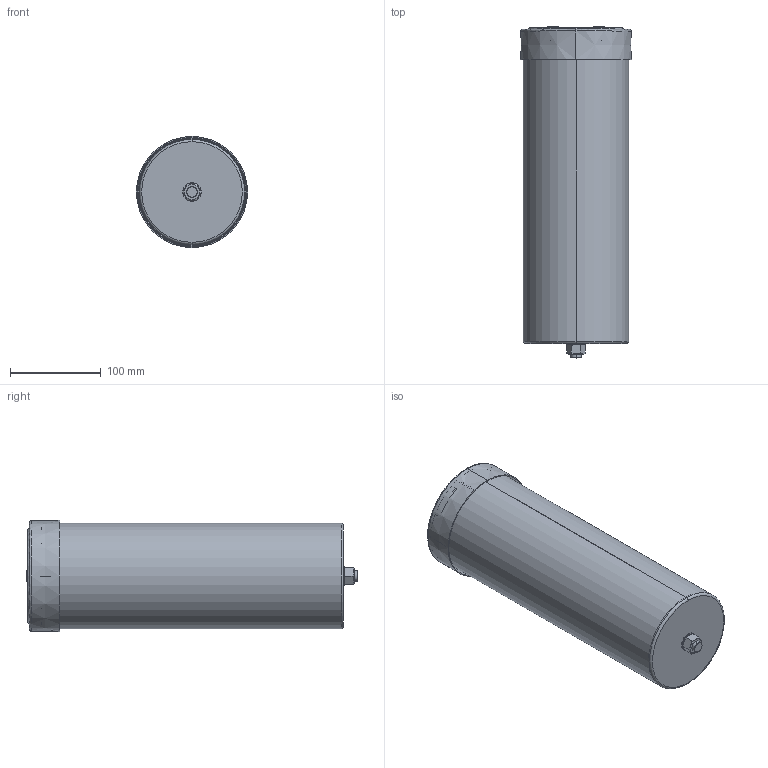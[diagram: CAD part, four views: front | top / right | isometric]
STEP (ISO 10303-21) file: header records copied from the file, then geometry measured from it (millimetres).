
FILE_DESCRIPTION (( 'STEP AP203' ), '1' );
FILE_NAME ('B25680Cx_116x348_350.STEP', '2021-09-30T03:52:32', ( '' ), ( '' ), 'SwSTEP 2.0', 'SolidWorks 2017', '' );
FILE_SCHEMA (( 'CONFIG_CONTROL_DESIGN' ));
Length unit declared in the file: millimetre
Products named in the file (1): B25680Cx_116x348_350
Bounding box: 122.58 x 366 x 122.58 mm (x, y, z)
Volume: 207188.6 mm3; surface area: 368670.4 mm2
Topology: 1 solids, 7 shells, 577 faces, 1430 edges, 903 vertices
Faces by surface type: plane 209, cylinder 168, bspline 83, cone 75, torus 42
Entity records: 20405 total; most frequent: CARTESIAN_POINT 6993, ORIENTED_EDGE 2834, DIRECTION 2774, EDGE_CURVE 1417, AXIS2_PLACEMENT_3D 1124, VERTEX_POINT 903, EDGE_LOOP 640, CIRCLE 629
